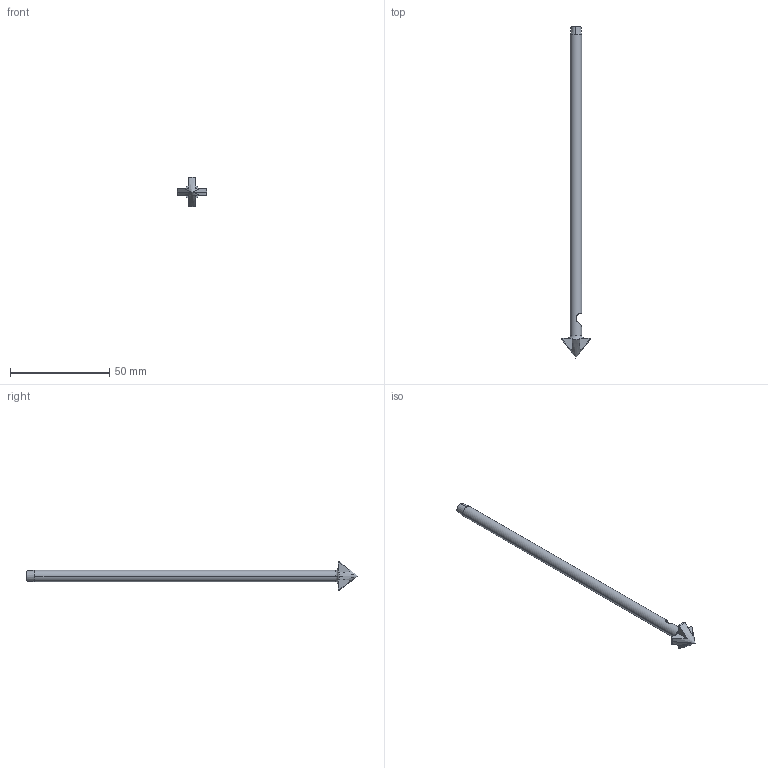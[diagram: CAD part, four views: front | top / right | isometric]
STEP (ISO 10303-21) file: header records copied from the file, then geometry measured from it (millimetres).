
FILE_DESCRIPTION (( 'STEP AP214' ), '1' );
FILE_NAME ('End_Effector.STEP', '2024-10-17T16:37:55', ( '' ), ( '' ), 'SwSTEP 2.0', 'SolidWorks 2020', '' );
FILE_SCHEMA (( 'AUTOMOTIVE_DESIGN' ));
Length unit declared in the file: millimetre
Products named in the file (1): End_Effector
Bounding box: 14.69 x 166.85 x 14.69 mm (x, y, z)
Volume: 4470.2 mm3; surface area: 3238.9 mm2
Topology: 1 solids, 1 shells, 32 faces, 82 edges, 50 vertices
Faces by surface type: plane 18, torus 7, cone 4, cylinder 3
Entity records: 1140 total; most frequent: CARTESIAN_POINT 355, ORIENTED_EDGE 160, DIRECTION 158, EDGE_CURVE 80, AXIS2_PLACEMENT_3D 65, VERTEX_POINT 50, CIRCLE 32, ADVANCED_FACE 32
